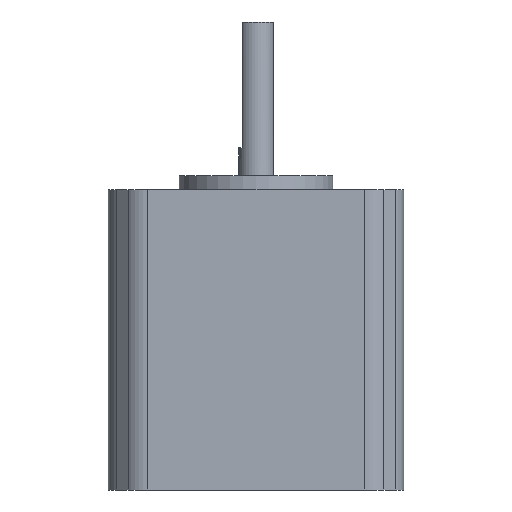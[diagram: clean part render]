
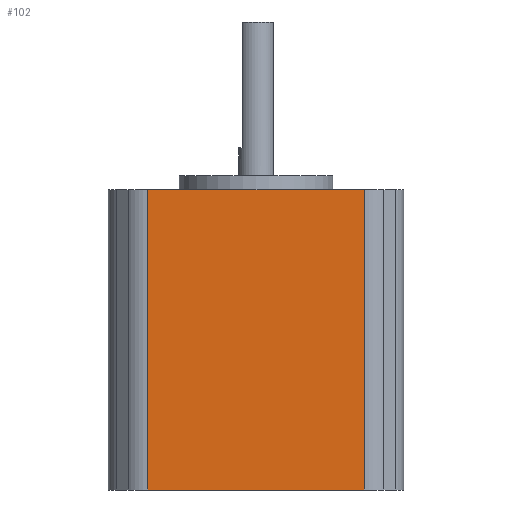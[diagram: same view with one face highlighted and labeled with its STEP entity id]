
A CAD part, left-side view. The second image highlights one B-rep face of the part: STEP entity #102.
In plain terms, the highlighted planar face has unit normal (-1, 0, 0).
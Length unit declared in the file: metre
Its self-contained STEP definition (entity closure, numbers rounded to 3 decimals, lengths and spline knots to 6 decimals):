
#102 = ADVANCED_FACE( '', ( #210 ), #211, .F. );
#210 = FACE_OUTER_BOUND( '', #325, .T. );
#211 = PLANE( '', #326 );
#325 = EDGE_LOOP( '', ( #535, #536, #537, #538 ) );
#326 = AXIS2_PLACEMENT_3D( '', #539, #540, #541 );
#535 = ORIENTED_EDGE( '', *, *, #649, .T. );
#536 = ORIENTED_EDGE( '', *, *, #699, .T. );
#537 = ORIENTED_EDGE( '', *, *, #700, .F. );
#538 = ORIENTED_EDGE( '', *, *, #632, .T. );
#539 = CARTESIAN_POINT( '', ( -0.02115, -0.00035, 0.043 ) );
#540 = DIRECTION( '', ( 1., 0., 0. ) );
#541 = DIRECTION( '', ( 0., 1., 0. ) );
#632 = EDGE_CURVE( '', #735, #739, #741, .T. );
#649 = EDGE_CURVE( '', #739, #767, #769, .T. );
#699 = EDGE_CURVE( '', #767, #840, #841, .F. );
#700 = EDGE_CURVE( '', #735, #840, #842, .T. );
#735 = VERTEX_POINT( '', #885 );
#739 = VERTEX_POINT( '', #890 );
#741 = LINE( '', #892, #893 );
#767 = VERTEX_POINT( '', #926 );
#769 = LINE( '', #928, #929 );
#840 = VERTEX_POINT( '', #1017 );
#841 = LINE( '', #1018, #1019 );
#842 = LINE( '', #1020, #1021 );
#885 = CARTESIAN_POINT( '', ( -0.02115, 0.015493, 0.043 ) );
#890 = CARTESIAN_POINT( '', ( -0.02115, 0.015493, 0. ) );
#892 = CARTESIAN_POINT( '', ( -0.02115, 0.015493, 0. ) );
#893 = VECTOR( '', #1058, 1. );
#926 = CARTESIAN_POINT( '', ( -0.02115, -0.015493, 0. ) );
#928 = CARTESIAN_POINT( '', ( -0.02115, -0.00035, 0. ) );
#929 = VECTOR( '', #1084, 1. );
#1017 = CARTESIAN_POINT( '', ( -0.02115, -0.015493, 0.043 ) );
#1018 = CARTESIAN_POINT( '', ( -0.02115, -0.015493, 0.043 ) );
#1019 = VECTOR( '', #1144, 1. );
#1020 = CARTESIAN_POINT( '', ( -0.02115, -0.00035, 0.043 ) );
#1021 = VECTOR( '', #1145, 1. );
#1058 = DIRECTION( '', ( 0., 0., -1. ) );
#1084 = DIRECTION( '', ( 0., -1., 0. ) );
#1144 = DIRECTION( '', ( 0., 0., -1. ) );
#1145 = DIRECTION( '', ( 0., -1., 0. ) );
